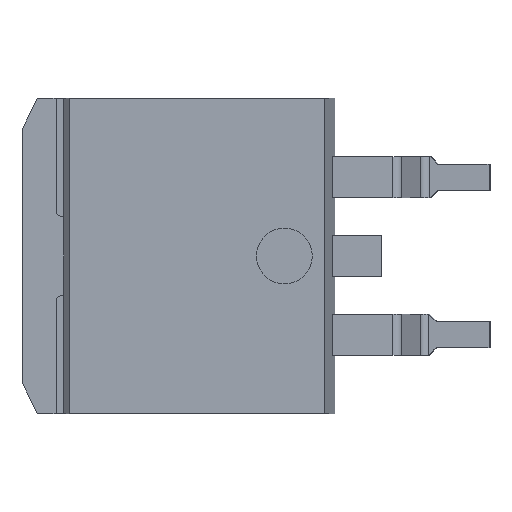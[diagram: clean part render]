
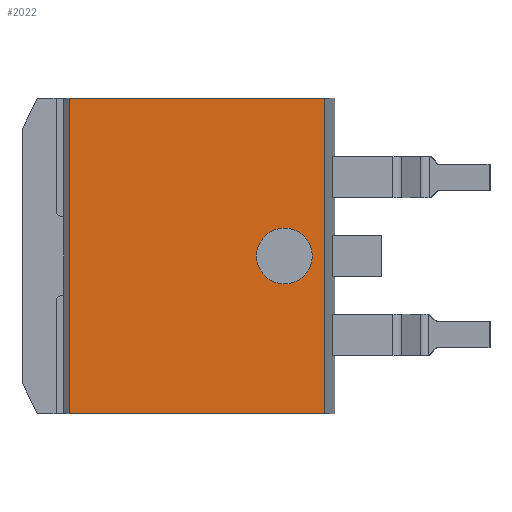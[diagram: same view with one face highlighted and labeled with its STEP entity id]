
A CAD part, left-side view. The second image highlights one B-rep face of the part: STEP entity #2022.
In plain terms, the highlighted planar face has unit normal (-1, 0, 0).
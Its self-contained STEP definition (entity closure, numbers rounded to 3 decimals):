
#17 = VERTEX_POINT ( 'NONE', #615 ) ;
#49 = ORIENTED_EDGE ( 'NONE', *, *, #182, .F. ) ;
#53 = VERTEX_POINT ( 'NONE', #1669 ) ;
#71 = CIRCLE ( 'NONE', #2265, 0.9 ) ;
#107 = CARTESIAN_POINT ( 'NONE',  ( -1.95, 8.578, -10.18 ) ) ;
#116 = EDGE_CURVE ( 'NONE', #451, #2030, #979, .T. ) ;
#141 = DIRECTION ( 'NONE',  ( 0., 0., 1. ) ) ;
#157 = CARTESIAN_POINT ( 'NONE',  ( -1.95, 8.578, 0. ) ) ;
#173 = CARTESIAN_POINT ( 'NONE',  ( -1.95, 1.634, -5.09 ) ) ;
#182 = EDGE_CURVE ( 'NONE', #1874, #2030, #432, .T. ) ;
#198 = EDGE_CURVE ( 'NONE', #983, #1874, #2515, .T. ) ;
#266 = DIRECTION ( 'NONE',  ( -1., 0., 0. ) ) ;
#372 = ORIENTED_EDGE ( 'NONE', *, *, #2009, .F. ) ;
#420 = CARTESIAN_POINT ( 'NONE',  ( -1.95, 0.344, -10.18 ) ) ;
#432 = LINE ( 'NONE', #157, #2379 ) ;
#447 = EDGE_CURVE ( 'NONE', #17, #53, #71, .T. ) ;
#451 = VERTEX_POINT ( 'NONE', #2138 ) ;
#541 = CARTESIAN_POINT ( 'NONE',  ( -1.95, 1.634, -5.09 ) ) ;
#615 = CARTESIAN_POINT ( 'NONE',  ( -1.95, 2.534, -5.09 ) ) ;
#678 = ORIENTED_EDGE ( 'NONE', *, *, #116, .T. ) ;
#857 = CIRCLE ( 'NONE', #1316, 0.9 ) ;
#872 = CARTESIAN_POINT ( 'NONE',  ( -1.95, 0.344, 0. ) ) ;
#979 = LINE ( 'NONE', #420, #2027 ) ;
#983 = VERTEX_POINT ( 'NONE', #2300 ) ;
#1042 = FACE_BOUND ( 'NONE', #1656, .T. ) ;
#1171 = DIRECTION ( 'NONE',  ( 0., -1., 0. ) ) ;
#1221 = PLANE ( 'NONE',  #1939 ) ;
#1316 = AXIS2_PLACEMENT_3D ( 'NONE', #173, #2582, #2321 ) ;
#1319 = EDGE_LOOP ( 'NONE', ( #49, #1889, #1811, #678 ) ) ;
#1329 = CARTESIAN_POINT ( 'NONE',  ( -1.95, 8.578, 0. ) ) ;
#1338 = VECTOR ( 'NONE', #1958, 1000. ) ;
#1460 = CARTESIAN_POINT ( 'NONE',  ( -1.95, 8.578, -10.18 ) ) ;
#1656 = EDGE_LOOP ( 'NONE', ( #372, #2363 ) ) ;
#1669 = CARTESIAN_POINT ( 'NONE',  ( -1.95, 0.734, -5.09 ) ) ;
#1730 = LINE ( 'NONE', #1460, #2458 ) ;
#1778 = EDGE_CURVE ( 'NONE', #983, #451, #1730, .T. ) ;
#1811 = ORIENTED_EDGE ( 'NONE', *, *, #1778, .T. ) ;
#1874 = VERTEX_POINT ( 'NONE', #1329 ) ;
#1876 = FACE_OUTER_BOUND ( 'NONE', #1319, .T. ) ;
#1889 = ORIENTED_EDGE ( 'NONE', *, *, #198, .F. ) ;
#1939 = AXIS2_PLACEMENT_3D ( 'NONE', #107, #2524, #2255 ) ;
#1958 = DIRECTION ( 'NONE',  ( 0., 0., 1. ) ) ;
#2009 = EDGE_CURVE ( 'NONE', #53, #17, #857, .T. ) ;
#2022 = ADVANCED_FACE ( 'NONE', ( #1042, #1876 ), #1221, .T. ) ;
#2027 = VECTOR ( 'NONE', #141, 1000. ) ;
#2030 = VERTEX_POINT ( 'NONE', #872 ) ;
#2138 = CARTESIAN_POINT ( 'NONE',  ( -1.95, 0.344, -10.18 ) ) ;
#2235 = CARTESIAN_POINT ( 'NONE',  ( -1.95, 8.578, -10.18 ) ) ;
#2255 = DIRECTION ( 'NONE',  ( 0., -1., 0. ) ) ;
#2265 = AXIS2_PLACEMENT_3D ( 'NONE', #541, #266, #2696 ) ;
#2300 = CARTESIAN_POINT ( 'NONE',  ( -1.95, 8.578, -10.18 ) ) ;
#2321 = DIRECTION ( 'NONE',  ( 0., -1., 0. ) ) ;
#2363 = ORIENTED_EDGE ( 'NONE', *, *, #447, .F. ) ;
#2379 = VECTOR ( 'NONE', #2571, 1000. ) ;
#2458 = VECTOR ( 'NONE', #1171, 1000. ) ;
#2515 = LINE ( 'NONE', #2235, #1338 ) ;
#2524 = DIRECTION ( 'NONE',  ( -1., 0., 0. ) ) ;
#2571 = DIRECTION ( 'NONE',  ( 0., -1., 0. ) ) ;
#2582 = DIRECTION ( 'NONE',  ( -1., 0., 0. ) ) ;
#2696 = DIRECTION ( 'NONE',  ( 0., -1., 0. ) ) ;
